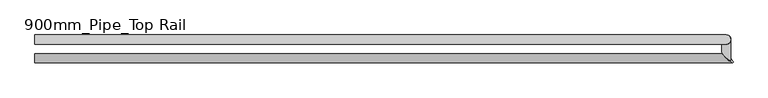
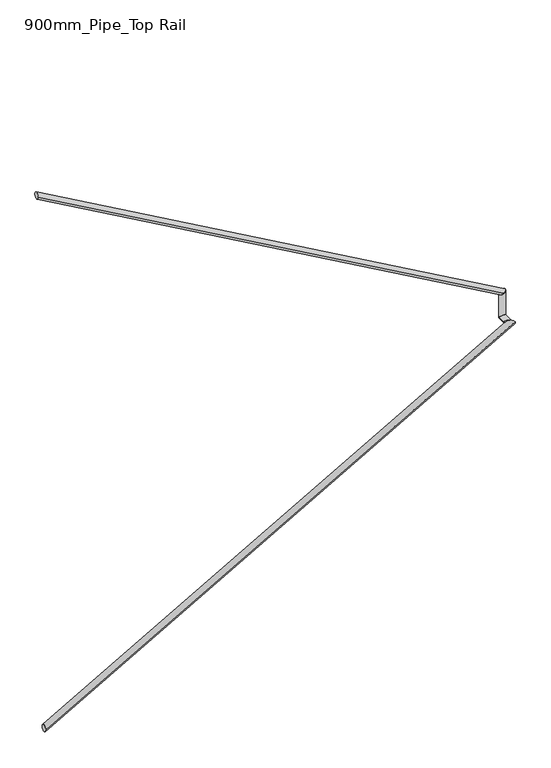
"""IFC4 building model written with IfcOpenShell, lengths in millimetres: railing geometry, 900mm_Pipe_Top Rail."""

from ifc_helpers import new_model, si_unit, frame, origin, place, context, project, spatial, ellipse_curve, source, transform, mapped, element, save
from ifc_brep_helpers import plane_surface, cylinder_surface, advanced_brep


def railing_900mm_pipe_top_rail_a27a7483(model_context):
    return source(origin(), model_context, "Body", "AdvancedBrep", [
        advanced_brep(
        [(-801.4958562, -3374.7473686, 16057.451671), (-801.4958562, -3334.7473686, 16057.451671), (2225.7734631, -3374.7473686, 17777.491057), (2190.9952008, -3334.7473686, 17757.7306807)],
        [
            (0, 1, ellipse_curve(frame((-801.4958562, -3354.7473686, 16057.451671), z_axis=(-1.0, 0.0, 0.0), x_axis=(0.0, 0.0, -1.0)), 23.0028744, 20.0)),
            (1, 0, ellipse_curve(frame((-801.4958562, -3354.7473686, 16057.451671), z_axis=(-1.0, 0.0, 0.0), x_axis=(0.0, 0.0, -1.0)), 23.0028744, 20.0)),
            (2, 3, ellipse_curve(frame((2208.3843319, -3354.7473686, 17767.6108689), z_axis=(0.6147986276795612, 0.7071067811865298, 0.34931740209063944), x_axis=(-0.6147986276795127, 0.7071067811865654, -0.3493174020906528)), 28.2842712, 20.0)),
            (3, 2, ellipse_curve(frame((2208.3843319, -3354.7473686, 17767.6108689), z_axis=(0.6147986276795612, 0.7071067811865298, 0.34931740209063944), x_axis=(-0.6147986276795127, 0.7071067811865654, -0.3493174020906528)), 28.2842712, 20.0)),
            (0, 2),
            (3, 1),
        ],
        [
            plane_surface(frame((-801.4958562, -3354.7473686, 16080.4545455), z_axis=(-1.0, 0.0, 0.0), x_axis=(0.0, 1.0, 0.0))),
            plane_surface(frame((2198.5041438, -3354.7473686, 17785.0), z_axis=(0.6147986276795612, 0.7071067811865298, 0.34931740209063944), x_axis=(0.7886841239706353, -0.5512070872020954, -0.2723014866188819))),
            cylinder_surface(frame((-791.6156681, -3354.7473686, 16063.0654143), z_axis=(-0.8694565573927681, 0.0, -0.4940094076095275), x_axis=(0.0, 1.0, 0.0)), 20.0),
        ],
        [
            (0, [[1, 2]]),
            (1, [[3, 4]]),
            (2, [[-1, 5, -4, 6]]),
            (2, [[-2, -6, -3, -5]]),
        ],
    ),
        advanced_brep(
        [(2218.9041438, -3362.2563116, 17765.0), (2178.9041438, -3327.4780493, 17765.0), (2218.9041438, -3274.4316761, 17765.0), (2178.9041438, -3274.4316761, 17765.0)],
        [
            (0, 1, ellipse_curve(frame((2198.9041438, -3344.8671804, 17765.0), z_axis=(-0.6147986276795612, -0.7071067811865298, -0.34931740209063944), x_axis=(0.6147986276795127, -0.7071067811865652, 0.34931740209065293)), 28.2842712, 20.0)),
            (1, 0, ellipse_curve(frame((2198.9041438, -3344.8671804, 17765.0), z_axis=(-0.6147986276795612, -0.7071067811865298, -0.34931740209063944), x_axis=(0.6147986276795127, -0.7071067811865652, 0.34931740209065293)), 28.2842712, 20.0)),
            (2, 3, ellipse_curve(frame((2198.9041438, -3274.4316761, 17765.0), z_axis=(0.0, 0.7071067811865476, 0.7071067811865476), x_axis=(0.0, -0.7071067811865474, 0.7071067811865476)), 28.2842712, 20.0)),
            (3, 2, ellipse_curve(frame((2198.9041438, -3274.4316761, 17765.0), z_axis=(0.0, 0.7071067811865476, 0.7071067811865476), x_axis=(0.0, -0.7071067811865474, 0.7071067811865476)), 28.2842712, 20.0)),
            (0, 2),
            (3, 1),
        ],
        [
            plane_surface(frame((2198.9041438, -3354.7473686, 17785.0), z_axis=(-0.6147986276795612, -0.7071067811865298, -0.34931740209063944), x_axis=(0.7886841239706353, -0.5512070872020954, -0.2723014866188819))),
            plane_surface(frame((2198.9041438, -3294.4316761, 17785.0), z_axis=(0.0, 0.7071067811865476, 0.7071067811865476), x_axis=(1.0, 0.0, 0.0))),
            cylinder_surface(frame((2198.9041438, -3354.7473686, 17765.0), z_axis=(0.0, -1.0, 0.0), x_axis=(-1.0, 0.0, 0.0)), 20.0),
        ],
        [
            (0, [[1, 2]]),
            (1, [[3, 4]]),
            (2, [[-1, 5, -4, 6]]),
            (2, [[-2, -6, -3, -5]]),
        ],
    ),
        advanced_brep(
        [(2218.9041438, -3274.4316761, 17765.0), (2178.9041438, -3274.4316761, 17765.0), (2218.9041438, -3274.4316761, 17943.8636364), (2178.9041438, -3274.4316761, 17920.5851603)],
        [
            (0, 1, ellipse_curve(frame((2198.9041438, -3274.4316761, 17765.0), z_axis=(0.0, -0.7071067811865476, -0.7071067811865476), x_axis=(0.0, 0.7071067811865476, -0.7071067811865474)), 28.2842712, 20.0)),
            (1, 0, ellipse_curve(frame((2198.9041438, -3274.4316761, 17765.0), z_axis=(0.0, -0.7071067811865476, -0.7071067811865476), x_axis=(0.0, 0.7071067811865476, -0.7071067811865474)), 28.2842712, 20.0)),
            (2, 3, ellipse_curve(frame((2198.9041438, -3274.4316761, 17932.2243983), z_axis=(-0.5029863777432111, 0.0, 0.8642943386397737), x_axis=(-0.8642943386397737, 0.0, -0.502986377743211)), 23.140265, 20.0)),
            (3, 2, ellipse_curve(frame((2198.9041438, -3274.4316761, 17932.2243983), z_axis=(-0.5029863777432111, 0.0, 0.8642943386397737), x_axis=(-0.8642943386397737, 0.0, -0.502986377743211)), 23.140265, 20.0)),
            (0, 2),
            (3, 1),
        ],
        [
            plane_surface(frame((2198.9041438, -3274.4316761, 17765.0), z_axis=(0.0, -0.7071067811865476, -0.7071067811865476), x_axis=(1.0, 0.0, 0.0))),
            plane_surface(frame((2198.9041438, -3274.4316761, 17932.2243983), z_axis=(-0.5029863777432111, 0.0, 0.8642943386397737), x_axis=(0.8642943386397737, 0.0, 0.5029863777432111))),
            cylinder_surface(frame((2198.9041438, -3274.4316761, 17765.0), z_axis=(0.0, 0.0, -1.0), x_axis=(-1.0, 0.0, 0.0)), 20.0),
        ],
        [
            (0, [[1, 2]]),
            (1, [[3, 4]]),
            (2, [[-1, 5, -4, 6]]),
            (2, [[-2, -6, -3, -5]]),
        ],
    ),
        advanced_brep(
        [(2198.9041438, -3254.4316761, 17932.2243983), (2198.9041438, -3294.4316761, 17932.2243983), (-801.4958562, -3254.4316761, 19636.9971256), (-801.4958562, -3294.4316761, 19636.9971256)],
        [
            (0, 1, ellipse_curve(frame((2198.9041438, -3274.4316761, 17932.2243983), z_axis=(0.5029863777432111, 0.0, -0.8642943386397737), x_axis=(0.8642943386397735, 0.0, 0.5029863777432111)), 23.140265, 20.0)),
            (1, 0, ellipse_curve(frame((2198.9041438, -3274.4316761, 17932.2243983), z_axis=(0.5029863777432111, 0.0, -0.8642943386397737), x_axis=(0.8642943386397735, 0.0, 0.5029863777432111)), 23.140265, 20.0)),
            (2, 3, ellipse_curve(frame((-801.4958562, -3274.4316761, 19636.9971256), z_axis=(-1.0, 0.0, 0.0), x_axis=(0.0, 0.0, -1.0)), 23.0028744, 20.0)),
            (3, 2, ellipse_curve(frame((-801.4958562, -3274.4316761, 19636.9971256), z_axis=(-1.0, 0.0, 0.0), x_axis=(0.0, 0.0, -1.0)), 23.0028744, 20.0)),
            (0, 2),
            (3, 1),
        ],
        [
            plane_surface(frame((2218.9041438, -3274.4316761, 17943.8636364), z_axis=(0.5029863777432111, 0.0, -0.8642943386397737), x_axis=(0.8642943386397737, 0.0, 0.5029863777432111))),
            plane_surface(frame((-801.4958562, -3274.4316761, 19660.0), z_axis=(-1.0, 0.0, 0.0), x_axis=(0.0, -1.0, 0.0))),
            cylinder_surface(frame((2209.0239556, -3274.4316761, 17926.4745052), z_axis=(0.8694565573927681, 0.0, -0.4940094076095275), x_axis=(0.0, -1.0, 0.0)), 20.0),
        ],
        [
            (0, [[1, 2]]),
            (1, [[3, 4]]),
            (2, [[-1, 5, -4, 6]]),
            (2, [[-2, -6, -3, -5]]),
        ],
    ),
    ])


if __name__ == "__main__":
    model = new_model("IFC4")
    model_context = context("Model", 3, world=origin())
    ifc_project = project(units=[si_unit("LENGTHUNIT", "METRE", prefix="MILLI")], contexts=[model_context])
    site = spatial("IfcSite", under=ifc_project)
    building = spatial("IfcBuilding", under=site)
    placement = place(None, origin())
    railing_900mm_pipe_top_rail_shape = railing_900mm_pipe_top_rail_a27a7483(model_context)
    element("IfcRailing", 1, ObjectType="900mm_Pipe_Top Rail", at=placement, inside=building, context=model_context, shape_type="MappedRepresentation", body=[
        mapped(railing_900mm_pipe_top_rail_shape, transform((0.0, 0.0, 0.0), x_axis=(1.0, 0.0, 0.0), y_axis=(0.0, 1.0, 0.0), z_axis=(0.0, 0.0, 1.0))),
    ])
    save(model, "model.ifc")
